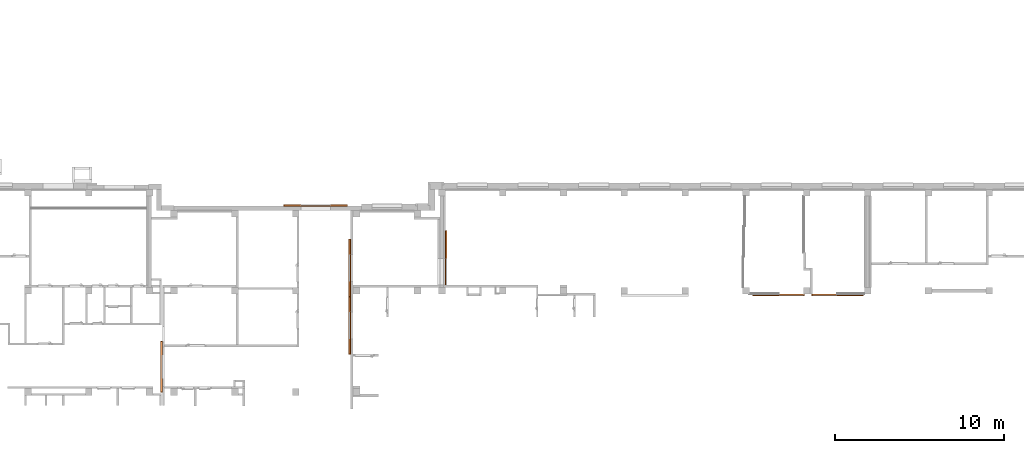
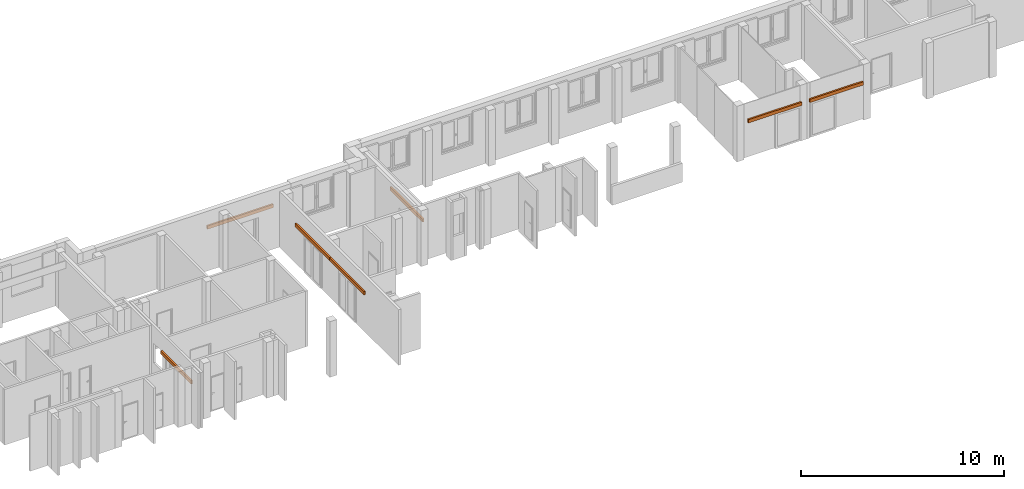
# One storey, part 37 of 37: 7 proxies.
"""IFC4 building model written with IfcOpenShell, lengths in metres."""

from ifc_helpers import new_model, entity, si_unit, converted_unit, derived_unit, frame, origin, place, context, subcontext, project, spatial, faceted_brep, material, element, save


model = new_model("IFC4")

# Units and contexts
model_context = context("Model", 3, precision=1e-05, world=origin())
body_context = subcontext(model_context, "Body", "Model", "MODEL_VIEW")
ifc_project = project(units=[si_unit("LENGTHUNIT", "METRE"), si_unit("AREAUNIT", "SQUARE_METRE"), si_unit("VOLUMEUNIT", "CUBIC_METRE"), si_unit("MASSUNIT", "GRAM", prefix="KILO"), converted_unit("PLANEANGLEUNIT", "DEGREE", entity("IfcPlaneAngleMeasure", 0.0174532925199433), si_unit("PLANEANGLEUNIT", "RADIAN"), dimensions=[0, 0, 0, 0, 0, 0, 0]), derived_unit("THERMALTRANSMITTANCEUNIT", [(si_unit("POWERUNIT", "WATT"), 1), (si_unit("THERMODYNAMICTEMPERATUREUNIT", "KELVIN"), -1), (si_unit("LENGTHUNIT", "METRE"), -2)]), derived_unit("VOLUMETRICFLOWRATEUNIT", [(si_unit("LENGTHUNIT", "METRE"), 3), (converted_unit("TIMEUNIT", "hour", entity("IfcTimeMeasure", 3600.0), si_unit("TIMEUNIT", "SECOND"), dimensions=[0, 0, 1, 0, 0, 0, 0]), -1), (si_unit("LENGTHUNIT", "METRE"), -1)])], contexts=[model_context])

# Site, building, storey
site_placement = place(None, origin())
site = spatial("IfcSite", under=ifc_project, at=site_placement, Name="3. ASŘ", CompositionType="ELEMENT")
building_placement = place(site_placement, origin())
building = spatial("IfcBuilding", under=site, at=building_placement, Name="Pavilon B", CompositionType="ELEMENT")
storey_placement = place(building_placement, origin())
storey = spatial("IfcBuildingStorey", under=building, at=storey_placement, Name="Půdorys 1.NP", CompositionType="ELEMENT", Elevation=0.0)

# Proxies
ifc_material_1 = material(Name="DVEŘNÍ POHON")
proxy_1_placement = place(storey_placement, frame((49.3, -21.25, 2.1)))
element("IfcBuildingElementProxy", 1, at=proxy_1_placement, inside=storey, material=ifc_material_1, context=body_context, shape_type="Brep", body=[
    faceted_brep([(0.0, 0.0, 0.0), (0.1, 0.0, 0.0), (0.1, 3.19999999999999, 0.0), (0.0, 3.19999999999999, 0.0), (0.1, 0.0, 0.2), (0.0, 0.0, 0.2), (0.0, 3.19999999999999, 0.2), (0.1, 3.19999999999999, 0.2)], [[[0, 1, 2, 3]], [[4, 5, 6, 7]], [[1, 0, 5, 4]], [[2, 1, 4, 7]], [[3, 2, 7, 6]], [[0, 3, 6, 5]]], orient=[[False], [False], [False], [False], [False], [False]]),
])
ifc_material_2 = material(Name="DVEŘNÍ POHON")
proxy_2_placement = place(storey_placement, frame((71.0, -21.9, 2.1)))
element("IfcBuildingElementProxy", 2, at=proxy_2_placement, inside=storey, material=ifc_material_2, context=body_context, shape_type="Brep", body=[
    faceted_brep([(0.0, 0.100000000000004, 0.0), (0.0, 3.63797880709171e-15, 0.0), (3.05, 0.0, 0.0), (3.05, 0.1, 0.0), (0.0, 3.63797880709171e-15, 0.2), (0.0, 0.100000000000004, 0.2), (3.05, 0.1, 0.2), (3.05, 0.0, 0.2)], [[[0, 1, 2, 3]], [[4, 5, 6, 7]], [[1, 0, 5, 4]], [[2, 1, 4, 7]], [[3, 2, 7, 6]], [[0, 3, 6, 5]]], orient=[[False], [False], [False], [False], [False], [False]]),
])
ifc_material_3 = material(Name="DVEŘNÍ POHON")
proxy_3_placement = place(storey_placement, frame((67.5, -21.9, 2.1)))
element("IfcBuildingElementProxy", 3, at=proxy_3_placement, inside=storey, material=ifc_material_3, context=body_context, shape_type="Brep", body=[
    faceted_brep([(0.0, 0.100000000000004, 0.0), (0.0, 3.63797880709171e-15, 0.0), (3.05, 0.0, 0.0), (3.05, 0.1, 0.0), (0.0, 3.63797880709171e-15, 0.2), (0.0, 0.100000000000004, 0.2), (3.05, 0.1, 0.2), (3.05, 0.0, 0.2)], [[[0, 1, 2, 3]], [[4, 5, 6, 7]], [[1, 0, 5, 4]], [[2, 1, 4, 7]], [[3, 2, 7, 6]], [[0, 3, 6, 5]]], orient=[[False], [False], [False], [False], [False], [False]]),
])
ifc_material_4 = material(Name="DVEŘNÍ POHON")
proxy_4_placement = place(storey_placement, frame((32.45, -27.6, 2.1)))
element("IfcBuildingElementProxy", 4, at=proxy_4_placement, inside=storey, material=ifc_material_4, context=body_context, shape_type="Brep", body=[
    faceted_brep([(0.0, 0.0, 0.0), (0.1, 0.0, 0.0), (0.1, 2.99999999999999, 0.0), (0.0, 2.99999999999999, 0.0), (0.1, 0.0, 0.2), (0.0, 0.0, 0.2), (0.0, 2.99999999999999, 0.2), (0.1, 2.99999999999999, 0.2)], [[[0, 1, 2, 3]], [[4, 5, 6, 7]], [[1, 0, 5, 4]], [[2, 1, 4, 7]], [[3, 2, 7, 6]], [[0, 3, 6, 5]]], orient=[[False], [False], [False], [False], [False], [False]]),
])
ifc_material_5 = material(Name="DVEŘNÍ POHON")
proxy_5_placement = place(storey_placement, frame((39.75, -16.6, 2.2)))
element("IfcBuildingElementProxy", 5, at=proxy_5_placement, inside=storey, material=ifc_material_5, context=body_context, shape_type="Brep", body=[
    faceted_brep([(0.0, 0.1, 0.0), (0.0, 0.0, 0.0), (3.76, 0.0, 0.0), (3.76, 0.1, 0.0), (0.0, 0.0, 0.2), (0.0, 0.1, 0.2), (3.76, 0.1, 0.2), (3.76, 0.0, 0.2)], [[[0, 1, 2, 3]], [[4, 5, 6, 7]], [[1, 0, 5, 4]], [[2, 1, 4, 7]], [[3, 2, 7, 6]], [[0, 3, 6, 5]]], orient=[[False], [False], [False], [False], [False], [False]]),
])
ifc_material_6 = material(Name="DVEŘNÍ POHON")
proxy_6_placement = place(storey_placement, frame((43.6, -21.95, 2.2)))
element("IfcBuildingElementProxy", 6, at=proxy_6_placement, inside=storey, material=ifc_material_6, context=body_context, shape_type="Brep", body=[
    faceted_brep([(0.0, 0.0, 0.0), (0.1, 0.0, 0.0), (0.1, 3.39999999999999, 0.0), (0.0, 3.39999999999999, 0.0), (0.1, 0.0, 0.2), (0.0, 0.0, 0.2), (0.0, 3.39999999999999, 0.2), (0.1, 3.39999999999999, 0.2)], [[[0, 1, 2, 3]], [[4, 5, 6, 7]], [[1, 0, 5, 4]], [[2, 1, 4, 7]], [[3, 2, 7, 6]], [[0, 3, 6, 5]]], orient=[[False], [False], [False], [False], [False], [False]]),
])
ifc_material_7 = material(Name="DVEŘNÍ POHON")
proxy_7_placement = place(storey_placement, frame((43.6, -25.35, 2.2)))
element("IfcBuildingElementProxy", 7, at=proxy_7_placement, inside=storey, material=ifc_material_7, context=body_context, shape_type="Brep", body=[
    faceted_brep([(0.0, 0.0, 0.0), (0.1, 0.0, 0.0), (0.1, 3.39999999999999, 0.0), (0.0, 3.39999999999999, 0.0), (0.1, 0.0, 0.2), (0.0, 0.0, 0.2), (0.0, 3.39999999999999, 0.2), (0.1, 3.39999999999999, 0.2)], [[[0, 1, 2, 3]], [[4, 5, 6, 7]], [[1, 0, 5, 4]], [[2, 1, 4, 7]], [[3, 2, 7, 6]], [[0, 3, 6, 5]]], orient=[[False], [False], [False], [False], [False], [False]]),
])

save(model, "model.ifc")
